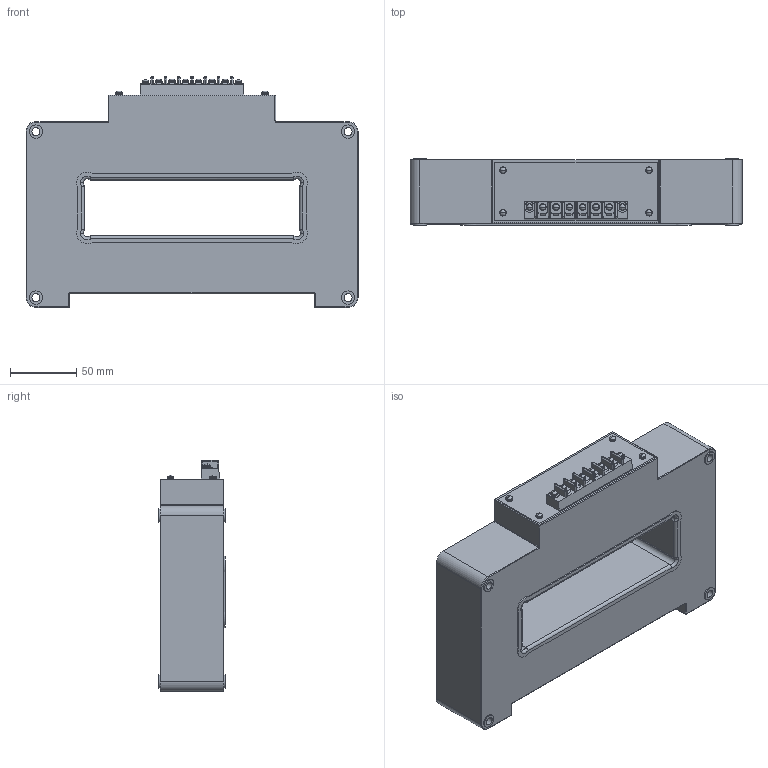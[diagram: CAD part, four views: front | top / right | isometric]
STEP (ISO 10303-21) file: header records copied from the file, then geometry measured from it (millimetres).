
FILE_DESCRIPTION(('CoCreate Modeling STEP Export'),'2;1');
FILE_NAME('HAZ XXXX-SB series.stp','2013-11-01T10:09:38',(''),(''),'CoCreate Modeling STEP processor for AP214 (Solid Model)','CoCreate Modeling 17.00A 17-Jun-2010 (C) Parametric Technology GmbH','');
FILE_SCHEMA(('AUTOMOTIVE_DESIGN { 1 0 10303 214 1 1 1 1 }'));
Length unit declared in the file: millimetre
Products named in the file (2): Case
Assembly tree (1 placements, depth 2):
  Case
    Case
Bounding box: 250 x 50 x 174 mm (x, y, z)
Volume: 1347799.1 mm3; surface area: 127694.4 mm2
Topology: 1 solids, 6 shells, 600 faces, 1453 edges, 896 vertices
Faces by surface type: cylinder 288, plane 204, torus 80, sphere 28
Entity records: 18959 total; most frequent: CARTESIAN_POINT 3908, ORIENTED_EDGE 2850, DIRECTION 2665, EDGE_CURVE 1425, AXIS2_PLACEMENT_3D 989, VERTEX_POINT 896, VECTOR 687, LINE 687
